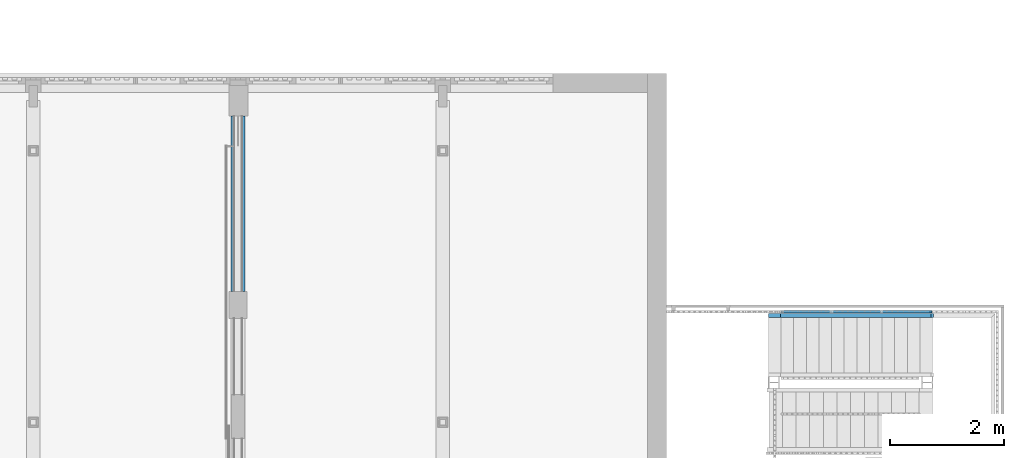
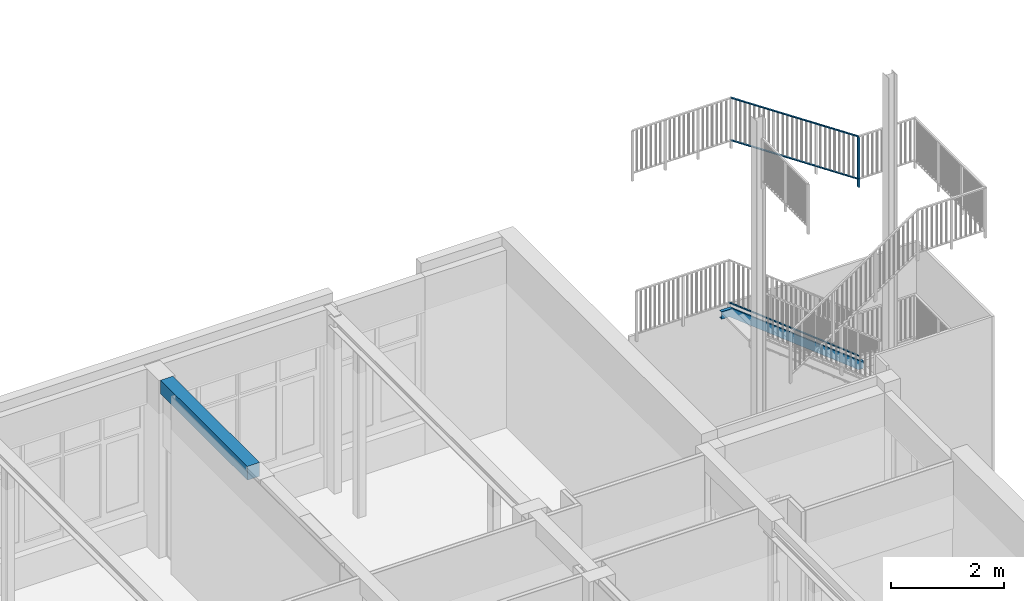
# One storey, part 62 of 135: 5 members, 1 beam, 3 elements without a shape of their own.
"""IFC2X3 building model written with IfcOpenShell, lengths in millimetres."""

from ifc_helpers import new_model, entity, si_unit, converted_unit, derived_unit, money_unit, direction, frame, origin_with_axes, place, context, subcontext, project, spatial, faceted_brep, material, type_object, element, aggregate, save


model = new_model("IFC2X3")

# Units and contexts
model_context = context("Model", 3, precision=0.01, world=origin_with_axes(), true_north=direction((0.0, 1.0)))
body_context = subcontext(model_context, "Body", "Model", "MODEL_VIEW")
ifc_project = project(units=[si_unit("LENGTHUNIT", "METRE", prefix="MILLI"), si_unit("AREAUNIT", "SQUARE_METRE"), si_unit("VOLUMEUNIT", "CUBIC_METRE"), converted_unit("PLANEANGLEUNIT", "DEGREE", entity("IfcPlaneAngleMeasure", 0.0174532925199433), si_unit("PLANEANGLEUNIT", "RADIAN"), dimensions=[0, 0, 0, 0, 0, 0, 0]), money_unit("EUR"), converted_unit("TIMEUNIT", "Year", entity("IfcTimeMeasure", 31557600.0), si_unit("TIMEUNIT", "SECOND"), dimensions=[0, 0, 1, 0, 0, 0, 0]), si_unit("MASSUNIT", "GRAM", prefix="KILO"), si_unit("THERMODYNAMICTEMPERATUREUNIT", "DEGREE_CELSIUS"), si_unit("LUMINOUSINTENSITYUNIT", "LUMEN"), si_unit("ENERGYUNIT", "JOULE", prefix="MEGA"), derived_unit("THERMALCONDUCTANCEUNIT", [(si_unit("POWERUNIT", "WATT"), 1), (si_unit("LENGTHUNIT", "METRE"), -1), (si_unit("THERMODYNAMICTEMPERATUREUNIT", "KELVIN"), -1)]), derived_unit("SPECIFICHEATCAPACITYUNIT", [(si_unit("ENERGYUNIT", "JOULE"), 1), (si_unit("MASSUNIT", "GRAM", prefix="KILO"), -1), (si_unit("THERMODYNAMICTEMPERATUREUNIT", "KELVIN"), -1)]), derived_unit("MASSDENSITYUNIT", [(si_unit("MASSUNIT", "GRAM", prefix="KILO"), 1), (si_unit("VOLUMEUNIT", "CUBIC_METRE"), -1)])], contexts=[model_context])

# Site, building, storey
site_placement = place(None, origin_with_axes())
site = spatial("IfcSite", under=ifc_project, at=site_placement, Name="Site", CompositionType="ELEMENT")
building_placement = place(site_placement, origin_with_axes())
building = spatial("IfcBuilding", under=site, at=building_placement, Name="Naam gebouw", CompositionType="ELEMENT")
storey_placement = place(building_placement, origin_with_axes())
storey = spatial("IfcBuildingStorey", under=building, at=storey_placement, Name="Begane grond N", CompositionType="ELEMENT", Elevation=0.0)

# Railing, member
railing_type = type_object("IfcRailingType", Name="Railing Type", PredefinedType="NOTDEFINED")
railing_1_placement = place(storey_placement, frame((56236.62159597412, 21185.9124251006, 4176.0), z_axis=(0.0, 0.0, 1.0), x_axis=(1.0, 0.0, 0.0)))
railing_1 = element("IfcRailing", 1, at=railing_1_placement, inside=storey, type_object=railing_type, Name="_Reling-x", PredefinedType="NOTDEFINED")
ifc_material_1 = material(Name="Metaal - Staal C")
member_type_1 = type_object("IfcMemberType", Name="IfcMember", PredefinedType="POST")
member_1_placement = place(railing_1_placement, frame((2746.822613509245, 2465.000000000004, 1636.673611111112), z_axis=(0.0, 0.0, 1.0), x_axis=(1.0, 0.0, 0.0)))
member_1 = element("IfcMember", 2, at=member_1_placement, type_object=member_type_1, material=ifc_material_1, Name="_Hoofdbaluster-x", ObjectType="POST", context=body_context, shape_type="Brep", body=[
    faceted_brep([(-20.00000000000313, 19.99999999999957, 6.091497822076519), (-20.00000000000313, -19.99999999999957, 6.091497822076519), (-20.00000000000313, -19.99999999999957, 1086.091497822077), (-20.00000000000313, 19.99999999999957, 1086.091497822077), (20.00000000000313, 19.99999999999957, -6.091497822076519), (20.00000000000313, -19.99999999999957, -6.091497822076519), (20.00000000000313, -19.99999999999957, 1073.908502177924), (20.00000000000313, 19.99999999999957, 1073.908502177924)], [[[0, 1, 2, 3]], [[0, 4, 5, 1]], [[1, 5, 6, 2]], [[3, 2, 6, 7]], [[4, 0, 3, 7]], [[5, 4, 7, 6]]]),
])

railing_2_placement = place(storey_placement, frame((56236.62159597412, 21185.9124251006, 157.4646725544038), z_axis=(0.0, 0.0, 1.0), x_axis=(1.0, 0.0, 0.0)))
railing_2 = element("IfcRailing", 3, at=railing_2_placement, inside=storey, type_object=railing_type, Name="_Reling-x", PredefinedType="NOTDEFINED")
member_type_2 = type_object("IfcMemberType", Name="IfcMember", PredefinedType="USERDEFINED")
member_2_placement = place(railing_2_placement, frame((1425.16642625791, 2465.000000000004, 1977.84825878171), z_axis=(0.0, 0.0, 1.0), x_axis=(1.0, 0.0, 0.0)))
member_2 = element("IfcMember", 4, at=member_2_placement, type_object=member_type_2, material=ifc_material_1, Name="_Regel-x", context=body_context, shape_type="Brep", body=[
    faceted_brep([(1326.64024592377, 19.99999999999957, 32.36067977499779), (1319.734344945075, 19.99999999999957, 12.36067977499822), (-1326.64024592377, 19.99999999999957, 2087.314787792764), (-1319.734344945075, 19.99999999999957, 2107.314787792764), (1326.64024592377, -19.99999999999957, 32.36067977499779), (1319.734344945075, -19.99999999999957, 12.36067977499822), (-1326.64024592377, -19.99999999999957, 2087.314787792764), (-1319.734344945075, -19.99999999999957, 2107.314787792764)], [[[0, 1, 2, 3]], [[0, 4, 5, 1]], [[1, 5, 6, 2]], [[3, 2, 6, 7]], [[4, 0, 3, 7]], [[5, 4, 7, 6]]]),
])
aggregate(railing_2, [member_2])

# Member
member_3_placement = place(railing_1_placement, frame((1443.607739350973, 2465.000000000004, 2708.38933986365), z_axis=(0.0, 0.0, 1.0), x_axis=(1.0, 0.0, 0.0)))
member_3 = element("IfcMember", 5, at=member_3_placement, type_object=member_type_2, material=ifc_material_1, Name="_Bovenregel-x", context=body_context, shape_type="Brep", body=[
    faceted_brep([(1303.214874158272, 19.99999999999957, 28.28427124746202), (1297.123376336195, 19.99999999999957, 8.28427124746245), (-1309.305812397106, 19.99999999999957, 1758.335013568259), (-1303.214874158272, 19.99999999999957, 1778.33538929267), (1303.214874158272, -19.99999999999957, 28.28427124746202), (1297.123376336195, -19.99999999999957, 8.28427124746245), (-1309.305812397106, -19.99999999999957, 1758.335013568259), (-1303.214874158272, -19.99999999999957, 1778.33538929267)], [[[0, 1, 2, 3]], [[0, 4, 5, 1]], [[1, 5, 6, 2]], [[3, 2, 6, 7]], [[4, 0, 3, 7]], [[5, 4, 7, 6]]]),
])

member_4_placement = place(railing_1_placement, frame((1443.607739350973, 2465.000000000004, 1784.312931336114), z_axis=(0.0, 0.0, 1.0), x_axis=(1.0, 0.0, 0.0)))
member_4 = element("IfcMember", 6, at=member_4_placement, type_object=member_type_2, material=ifc_material_1, Name="_Regel-x", context=body_context, shape_type="Brep", body=[
    faceted_brep([(1306.260623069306, 19.99999999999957, 32.36067977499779), (1300.169125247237, 19.99999999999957, 12.36067977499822), (-1306.260343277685, 19.99999999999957, 1762.411609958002), (-1300.169405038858, 19.99999999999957, 1782.411985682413), (1306.260623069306, -19.99999999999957, 32.36067977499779), (1300.169125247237, -19.99999999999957, 12.36067977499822), (-1306.260343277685, -19.99999999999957, 1762.411609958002), (-1300.169405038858, -19.99999999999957, 1782.411985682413)], [[[0, 1, 2, 3]], [[0, 4, 5, 1]], [[1, 5, 6, 2]], [[3, 2, 6, 7]], [[4, 0, 3, 7]], [[5, 4, 7, 6]]]),
])

aggregate(railing_1, [member_1, member_3, member_4])

# Stair, member
stair_placement = place(storey_placement, frame((59009.99999999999, 22570.91242510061, 1887.673611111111), z_axis=(0.0, 0.0, 1.0), x_axis=(1.0, 0.0, 0.0)))
stair = element("IfcStair", 7, at=stair_placement, inside=storey, Name="_Trap-x", ShapeType="NOTDEFINED")
member_type_3 = type_object("IfcMemberType", Name="IfcMember", PredefinedType="NOTDEFINED")
member_5_placement = place(stair_placement, origin_with_axes())
member_5 = element("IfcMember", 8, at=member_5_placement, type_object=member_type_3, material=ifc_material_1, Name="_Trapconstructie-x", context=body_context, shape_type="Brep", body=[
    faceted_brep([(20.00000000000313, 979.9999999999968, 39.99999999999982), (20.00000000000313, 979.9999999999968, 199.9999999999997), (-25.02468233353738, 979.9999999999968, 199.9999999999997), (-218.8646701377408, 979.9999999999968, 351.9849383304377), (-440.814456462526, 979.9999999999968, 526.0100451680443), (-662.7642427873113, 979.9999999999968, 700.0351520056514), (-884.7140291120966, 979.9999999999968, 874.060258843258), (-1106.663815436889, 979.9999999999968, 1048.085365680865), (-1328.613601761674, 979.9999999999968, 1222.110472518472), (-1550.563388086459, 979.9999999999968, 1396.135579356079), (-1772.513174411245, 980.0000000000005, 1570.160686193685), (-1994.46296073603, 980.0000000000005, 1744.185793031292), (-2216.412747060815, 979.9999999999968, 1918.210899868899), (-2438.3625333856, 980.0000000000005, 2092.236006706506), (-2671.49145946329, 980.0000000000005, 2275.026388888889), (-2885.347222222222, 980.0000000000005, 2275.026388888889), (-2885.347222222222, 980.0000000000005, 2115.026388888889), (-2726.738667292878, 980.0000000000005, 2115.026388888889), (-2537.086251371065, 980.0000000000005, 1966.324817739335), (-2315.13646504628, 979.9999999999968, 1792.299710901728), (-2093.186678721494, 980.0000000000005, 1618.274604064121), (-1871.236892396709, 980.0000000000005, 1444.249497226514), (-1649.287106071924, 980.0000000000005, 1270.224390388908), (-1427.337319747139, 979.9999999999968, 1096.199283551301), (-1205.387533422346, 979.9999999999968, 922.1741767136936), (-983.437747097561, 979.9999999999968, 748.1490698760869), (-761.4879607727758, 979.9999999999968, 574.1239630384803), (-539.5381744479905, 979.9999999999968, 400.0988562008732), (-317.5883881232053, 979.9999999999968, 226.0737493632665), (-80.27189016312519, 979.9999999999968, 39.99999999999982), (20.00000000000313, 1044.999999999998, 39.99999999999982), (20.00000000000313, 1044.999999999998, 50.49999999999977), (20.00000000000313, 987.4999999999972, 50.49999999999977), (20.00000000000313, 987.4999999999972, 189.4999999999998), (20.00000000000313, 1044.999999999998, 189.4999999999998), (20.00000000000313, 1044.999999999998, 199.9999999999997), (-25.02468233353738, 1044.999999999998, 199.9999999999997), (-218.8646701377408, 1044.999999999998, 351.9849383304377), (-440.814456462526, 1044.999999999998, 526.0100451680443), (-662.7642427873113, 1044.999999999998, 700.0351520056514), (-884.7140291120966, 1044.999999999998, 874.060258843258), (-1106.663815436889, 1044.999999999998, 1048.085365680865), (-1328.613601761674, 1044.999999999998, 1222.110472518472), (-1550.563388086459, 1044.999999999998, 1396.135579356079), (-1772.513174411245, 1044.999999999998, 1570.160686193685), (-1994.46296073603, 1044.999999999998, 1744.185793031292), (-2216.412747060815, 1044.999999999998, 1918.210899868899), (-2438.3625333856, 1044.999999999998, 2092.236006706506), (-2671.49145946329, 1044.999999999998, 2275.026388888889), (-2885.347222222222, 1044.999999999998, 2275.026388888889), (-2885.347222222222, 1044.999999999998, 2264.526388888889), (-2885.347222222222, 987.4999999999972, 2264.526388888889), (-2885.347222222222, 987.4999999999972, 2125.526388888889), (-2885.347222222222, 1044.999999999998, 2125.526388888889), (-2885.347222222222, 1044.999999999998, 2115.026388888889), (-2726.738667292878, 1044.999999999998, 2115.026388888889), (-80.27189016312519, 1044.999999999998, 39.99999999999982), (-2537.086251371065, 1044.999999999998, 1966.324817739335), (-2315.13646504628, 1044.999999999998, 1792.299710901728), (-2093.186678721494, 1044.999999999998, 1618.274604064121), (-1871.236892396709, 1044.999999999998, 1444.249497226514), (-1649.287106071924, 1044.999999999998, 1270.224390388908), (-1427.337319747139, 1044.999999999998, 1096.199283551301), (-1205.387533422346, 1044.999999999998, 922.1741767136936), (-983.437747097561, 1044.999999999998, 748.1490698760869), (-761.4879607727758, 1044.999999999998, 574.1239630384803), (-539.5381744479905, 1044.999999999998, 400.0988562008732), (-317.5883881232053, 1044.999999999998, 226.0737493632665), (-2723.113069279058, 1044.999999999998, 2125.526388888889), (-2530.607507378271, 1044.999999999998, 1974.587739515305), (-2308.657721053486, 1044.999999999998, 1800.562632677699), (-2086.7079347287, 1044.999999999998, 1626.537525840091), (-1864.758148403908, 1044.999999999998, 1452.512419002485), (-1642.808362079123, 1044.999999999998, 1278.487312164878), (-1420.858575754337, 1044.999999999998, 1104.462205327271), (-1198.908789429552, 1044.999999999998, 930.4370984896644), (-976.959003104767, 1044.999999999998, 756.4119916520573), (-755.0092167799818, 1044.999999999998, 582.3868848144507), (-533.0594304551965, 1044.999999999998, 408.3617779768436), (-311.1096441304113, 1044.999999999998, 234.336671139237), (-76.64629214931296, 1044.999999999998, 50.49999999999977), (-76.64629214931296, 987.4999999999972, 50.49999999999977), (-311.1096441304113, 987.4999999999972, 234.336671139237), (-533.0594304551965, 987.4999999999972, 408.3617779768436), (-755.0092167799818, 987.4999999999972, 582.3868848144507), (-976.959003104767, 987.4999999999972, 756.4119916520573), (-1198.908789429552, 987.4999999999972, 930.4370984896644), (-1420.858575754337, 987.4999999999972, 1104.462205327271), (-1642.808362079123, 987.4999999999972, 1278.487312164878), (-1864.758148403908, 987.4999999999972, 1452.512419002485), (-2086.7079347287, 987.4999999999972, 1626.537525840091), (-2308.657721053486, 987.4999999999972, 1800.562632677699), (-2530.607507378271, 987.4999999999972, 1974.587739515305), (-2723.113069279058, 987.4999999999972, 2125.526388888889), (-2675.117057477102, 987.4999999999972, 2264.526388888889), (-2444.841277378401, 987.4999999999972, 2083.973084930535), (-2222.891491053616, 987.4999999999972, 1909.947978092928), (-2000.941704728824, 987.4999999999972, 1735.922871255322), (-1778.991918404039, 987.4999999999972, 1561.897764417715), (-1557.042132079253, 987.4999999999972, 1387.872657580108), (-1335.092345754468, 987.4999999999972, 1213.847550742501), (-1113.142559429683, 987.4999999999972, 1039.822443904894), (-891.1927731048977, 987.4999999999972, 865.7973370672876), (-669.2429867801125, 987.4999999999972, 691.7722302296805), (-447.2932004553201, 987.4999999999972, 517.7471233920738), (-225.3434141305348, 987.4999999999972, 343.7220165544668), (-28.65028034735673, 987.4999999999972, 189.4999999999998), (-28.65028034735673, 1044.999999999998, 189.4999999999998), (-225.3434141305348, 1044.999999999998, 343.7220165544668), (-447.2932004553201, 1044.999999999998, 517.7471233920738), (-669.2429867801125, 1044.999999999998, 691.7722302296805), (-891.1927731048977, 1044.999999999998, 865.7973370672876), (-1113.142559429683, 1044.999999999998, 1039.822443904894), (-1335.092345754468, 1044.999999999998, 1213.847550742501), (-1557.042132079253, 1044.999999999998, 1387.872657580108), (-1778.991918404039, 1044.999999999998, 1561.897764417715), (-2000.941704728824, 1044.999999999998, 1735.922871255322), (-2222.891491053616, 1044.999999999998, 1909.947978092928), (-2444.841277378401, 1044.999999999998, 2083.973084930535), (-2675.117057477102, 1044.999999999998, 2264.526388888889)], [[[0, 1, 2, 3, 4, 5, 6, 7, 8, 9, 10, 11, 12, 13, 14, 15, 16, 17, 18, 19, 20, 21, 22, 23, 24, 25, 26, 27, 28, 29]], [[0, 30, 31, 32, 33, 34, 35, 1]], [[1, 35, 36, 2]], [[2, 36, 37, 38, 39, 40, 41, 42, 43, 44, 45, 46, 47, 48, 14, 13, 12, 11, 10, 9, 8, 7, 6, 5, 4, 3]], [[14, 48, 49, 15]], [[16, 15, 49, 50, 51, 52, 53, 54]], [[55, 17, 16, 54]], [[56, 29, 28, 27, 26, 25, 24, 23, 22, 21, 20, 19, 18, 17, 55, 57, 58, 59, 60, 61, 62, 63, 64, 65, 66, 67]], [[30, 0, 29, 56]], [[31, 30, 56, 67, 66, 65, 64, 63, 62, 61, 60, 59, 58, 57, 55, 54, 53, 68, 69, 70, 71, 72, 73, 74, 75, 76, 77, 78, 79, 80]], [[32, 31, 80, 81]], [[33, 32, 81, 82, 83, 84, 85, 86, 87, 88, 89, 90, 91, 92, 93, 52, 51, 94, 95, 96, 97, 98, 99, 100, 101, 102, 103, 104, 105, 106]], [[34, 33, 106, 107]], [[35, 34, 107, 108, 109, 110, 111, 112, 113, 114, 115, 116, 117, 118, 119, 50, 49, 48, 47, 46, 45, 44, 43, 42, 41, 40, 39, 38, 37, 36]], [[119, 94, 51, 50]], [[93, 68, 53, 52]], [[81, 80, 79, 78, 77, 76, 75, 74, 73, 72, 71, 70, 69, 68, 93, 92, 91, 90, 89, 88, 87, 86, 85, 84, 83, 82]], [[107, 106, 105, 104, 103, 102, 101, 100, 99, 98, 97, 96, 95, 94, 119, 118, 117, 116, 115, 114, 113, 112, 111, 110, 109, 108]]]),
])
aggregate(stair, [member_5])

# Beam
ifc_material_2 = material(Name="ALG - CONSTRUCTIEF KOLOM")
beam_type = type_object("IfcBeamType", Name="ALG - CONSTRUCTIEF KOLOM 250 x 300", PredefinedType="BEAM")
beam_placement = place(storey_placement, frame((46800.0, 27505.91242510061, 3850.000000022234), z_axis=(0.0, 0.0, 1.0), x_axis=(-1.0, 0.0, 0.0)))
element("IfcBeam", 9, at=beam_placement, inside=storey, type_object=beam_type, material=ifc_material_2, Name="_Balk-x", ObjectType="BEAM", context=body_context, shape_type="Brep", body=[
    faceted_brep([(-125.0, 3498.840362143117, -300.000000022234), (-125.0, 419.9999999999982, -300.000000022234), (-125.0, 419.9999999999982, -2.223332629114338e-08), (-125.0, 3498.840362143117, -2.223332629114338e-08), (125.0, 3498.018477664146, -300.000000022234), (125.0, 419.9999999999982, -300.000000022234), (125.0, 419.9999999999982, -2.223332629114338e-08), (125.0, 3498.01847766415, -2.223332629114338e-08)], [[[0, 1, 2, 3]], [[4, 5, 1, 0]], [[5, 6, 2, 1]], [[3, 2, 6, 7]], [[4, 0, 3, 7]], [[7, 6, 5, 4]]]),
])

save(model, "model.ifc")
